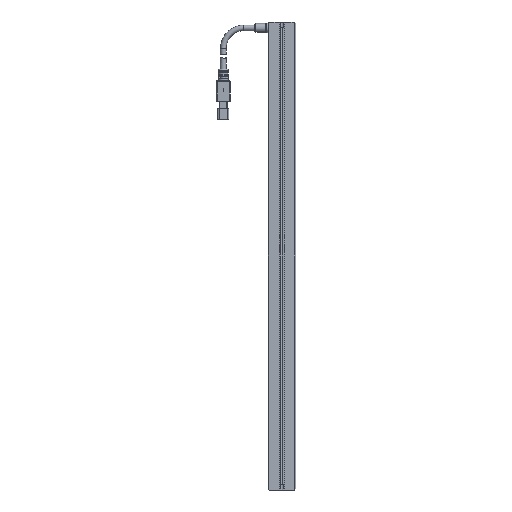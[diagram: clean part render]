
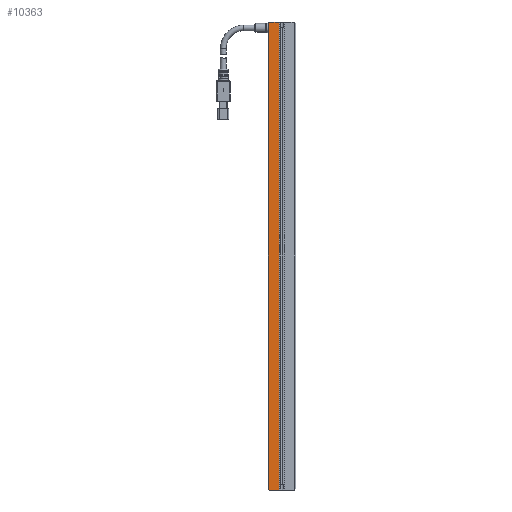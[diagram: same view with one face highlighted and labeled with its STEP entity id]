
A CAD part, front view. The second image highlights one B-rep face of the part: STEP entity #10363.
In plain terms, the highlighted planar face has unit normal (0, -1, 0).
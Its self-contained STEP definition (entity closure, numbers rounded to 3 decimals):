
#263 = LINE ( 'NONE', #4508, #12304 ) ;
#1471 = FACE_OUTER_BOUND ( 'NONE', #17874, .T. ) ;
#1720 = VERTEX_POINT ( 'NONE', #6492 ) ;
#1900 = EDGE_CURVE ( 'NONE', #1720, #13498, #12577, .T. ) ;
#1933 = VECTOR ( 'NONE', #11439, 1000. ) ;
#2250 = CARTESIAN_POINT ( 'NONE',  ( -174.5, 0., -4.5 ) ) ;
#2772 = VERTEX_POINT ( 'NONE', #16013 ) ;
#3740 = VECTOR ( 'NONE', #17135, 1000. ) ;
#3768 = ORIENTED_EDGE ( 'NONE', *, *, #9695, .T. ) ;
#4320 = VECTOR ( 'NONE', #8582, 1000. ) ;
#4508 = CARTESIAN_POINT ( 'NONE',  ( -1.75, 0., 170. ) ) ;
#5369 = VERTEX_POINT ( 'NONE', #8314 ) ;
#5693 = DIRECTION ( 'NONE',  ( 0., -1., 0. ) ) ;
#6492 = CARTESIAN_POINT ( 'NONE',  ( -9.5, 0., 169.5 ) ) ;
#7458 = LINE ( 'NONE', #19325, #10914 ) ;
#8308 = CARTESIAN_POINT ( 'NONE',  ( -9., 0., 170. ) ) ;
#8314 = CARTESIAN_POINT ( 'NONE',  ( -1.75, 0., 170. ) ) ;
#8327 = VERTEX_POINT ( 'NONE', #8683 ) ;
#8582 = DIRECTION ( 'NONE',  ( -1., 0., 0. ) ) ;
#8683 = CARTESIAN_POINT ( 'NONE',  ( -9., 0., -170. ) ) ;
#9499 = ORIENTED_EDGE ( 'NONE', *, *, #1900, .T. ) ;
#9562 = VECTOR ( 'NONE', #15204, 1000. ) ;
#9695 = EDGE_CURVE ( 'NONE', #5369, #16475, #13619, .T. ) ;
#9936 = CARTESIAN_POINT ( 'NONE',  ( 0., 0., 170. ) ) ;
#10163 = EDGE_CURVE ( 'NONE', #16475, #1720, #13073, .T. ) ;
#10220 = DIRECTION ( 'NONE',  ( 0., 0., -1. ) ) ;
#10363 = ADVANCED_FACE ( 'NONE', ( #1471 ), #18905, .T. ) ;
#10914 = VECTOR ( 'NONE', #13343, 1000. ) ;
#11389 = ORIENTED_EDGE ( 'NONE', *, *, #10163, .T. ) ;
#11439 = DIRECTION ( 'NONE',  ( 0., 0., -1. ) ) ;
#11627 = AXIS2_PLACEMENT_3D ( 'NONE', #12861, #5693, #18974 ) ;
#12086 = LINE ( 'NONE', #2250, #3740 ) ;
#12304 = VECTOR ( 'NONE', #10220, 1000. ) ;
#12577 = LINE ( 'NONE', #17481, #1933 ) ;
#12716 = ORIENTED_EDGE ( 'NONE', *, *, #15328, .F. ) ;
#12861 = CARTESIAN_POINT ( 'NONE',  ( 0., 0., 170. ) ) ;
#13073 = LINE ( 'NONE', #16994, #9562 ) ;
#13343 = DIRECTION ( 'NONE',  ( -1., 0., 0. ) ) ;
#13498 = VERTEX_POINT ( 'NONE', #17326 ) ;
#13619 = LINE ( 'NONE', #9936, #4320 ) ;
#13646 = ORIENTED_EDGE ( 'NONE', *, *, #17866, .F. ) ;
#15204 = DIRECTION ( 'NONE',  ( -0.707, 0., -0.707 ) ) ;
#15328 = EDGE_CURVE ( 'NONE', #5369, #2772, #263, .T. ) ;
#15574 = EDGE_CURVE ( 'NONE', #13498, #8327, #12086, .T. ) ;
#16013 = CARTESIAN_POINT ( 'NONE',  ( -1.75, 0., -170. ) ) ;
#16475 = VERTEX_POINT ( 'NONE', #8308 ) ;
#16556 = ORIENTED_EDGE ( 'NONE', *, *, #15574, .T. ) ;
#16994 = CARTESIAN_POINT ( 'NONE',  ( -4.5, 0., 174.5 ) ) ;
#17135 = DIRECTION ( 'NONE',  ( 0.707, 0., -0.707 ) ) ;
#17326 = CARTESIAN_POINT ( 'NONE',  ( -9.5, 0., -169.5 ) ) ;
#17481 = CARTESIAN_POINT ( 'NONE',  ( -9.5, 0., 170. ) ) ;
#17866 = EDGE_CURVE ( 'NONE', #2772, #8327, #7458, .T. ) ;
#17874 = EDGE_LOOP ( 'NONE', ( #3768, #11389, #9499, #16556, #13646, #12716 ) ) ;
#18905 = PLANE ( 'NONE',  #11627 ) ;
#18974 = DIRECTION ( 'NONE',  ( 1., 0., 0. ) ) ;
#19325 = CARTESIAN_POINT ( 'NONE',  ( 0., 0., -170. ) ) ;
